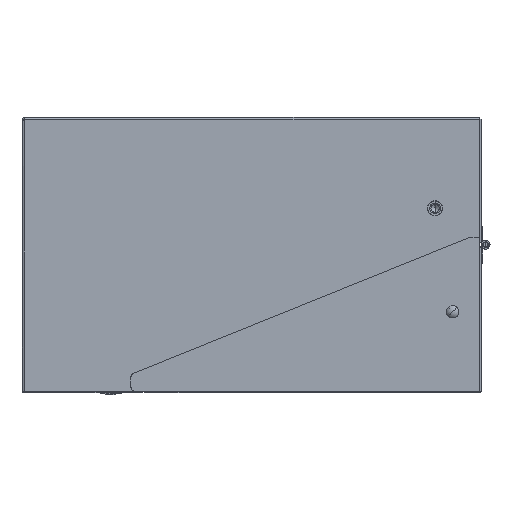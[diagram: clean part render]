
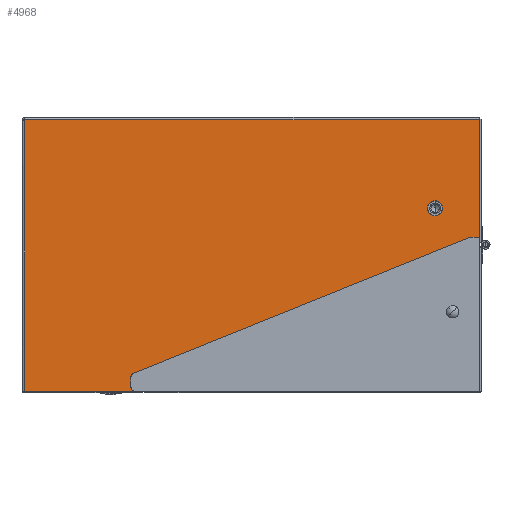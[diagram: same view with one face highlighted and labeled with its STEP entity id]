
A CAD part, left-side view. The second image highlights one B-rep face of the part: STEP entity #4968.
In plain terms, the highlighted planar face has unit normal (-1, 0, 0).
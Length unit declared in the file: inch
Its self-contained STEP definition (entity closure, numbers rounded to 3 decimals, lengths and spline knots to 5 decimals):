
#4892 = VERTEX_POINT ( 'NONE', #13781 ) ;
#4894 = EDGE_CURVE ( 'Edge23', #4895, #4892, #13779, .T. ) ;
#4895 = VERTEX_POINT ( 'NONE', #13837 ) ;
#4927 = EDGE_CURVE ( 'Edge65', #4928, #4955, #13905, .T. ) ;
#4928 = VERTEX_POINT ( 'NONE', #13900 ) ;
#4929 = ORIENTED_EDGE ( 'NONE', *, *, #4930, .F. ) ;
#4930 = EDGE_CURVE ( 'Edge15', #4931, #4928, #13899, .T. ) ;
#4931 = VERTEX_POINT ( 'NONE', #13895 ) ;
#4932 = ORIENTED_EDGE ( 'NONE', *, *, #4933, .F. ) ;
#4933 = EDGE_CURVE ( 'Edge56', #4934, #4931, #13894, .T. ) ;
#4934 = VERTEX_POINT ( 'NONE', #13890 ) ;
#4935 = ORIENTED_EDGE ( 'NONE', *, *, #4936, .F. ) ;
#4936 = EDGE_CURVE ( 'NONE', #4937, #4934, #13889, .T. ) ;
#4937 = VERTEX_POINT ( 'NONE', #13885 ) ;
#4938 = ORIENTED_EDGE ( 'NONE', *, *, #4939, .F. ) ;
#4939 = EDGE_CURVE ( 'NONE', #4940, #4937, #13884, .T. ) ;
#4940 = VERTEX_POINT ( 'NONE', #13880 ) ;
#4941 = EDGE_CURVE ( 'Edge23', #4892, #4895, #13879, .T. ) ;
#4942 = EDGE_LOOP ( 'NONE', ( #4943, #4947, #4950, #4953, #4956, #4929, #4932, #4935, #4938, #5002, #5005 ) ) ;
#4943 = ORIENTED_EDGE ( 'NONE', *, *, #4944, .T. ) ;
#4944 = EDGE_CURVE ( 'NONE', #4945, #4946, #13874, .T. ) ;
#4945 = VERTEX_POINT ( 'NONE', #13936 ) ;
#4946 = VERTEX_POINT ( 'NONE', #13935 ) ;
#4947 = ORIENTED_EDGE ( 'NONE', *, *, #4948, .F. ) ;
#4948 = EDGE_CURVE ( 'NONE', #4949, #4946, #13933, .T. ) ;
#4949 = VERTEX_POINT ( 'NONE', #13929 ) ;
#4950 = ORIENTED_EDGE ( 'NONE', *, *, #4951, .F. ) ;
#4951 = EDGE_CURVE ( 'Edge26', #4952, #4949, #13928, .T. ) ;
#4952 = VERTEX_POINT ( 'NONE', #13924 ) ;
#4953 = ORIENTED_EDGE ( 'NONE', *, *, #4954, .F. ) ;
#4954 = EDGE_CURVE ( 'Edge6', #4955, #4952, #13923, .T. ) ;
#4955 = VERTEX_POINT ( 'NONE', #13919 ) ;
#4956 = ORIENTED_EDGE ( 'NONE', *, *, #4927, .F. ) ;
#4968 = ADVANCED_FACE ( 'Face2', ( #13961, #13960 ), #13959, .F. ) ;
#4969 = EDGE_LOOP ( 'NONE', ( #4970, #4971 ) ) ;
#4970 = ORIENTED_EDGE ( 'NONE', *, *, #4894, .T. ) ;
#4971 = ORIENTED_EDGE ( 'NONE', *, *, #4941, .T. ) ;
#5002 = ORIENTED_EDGE ( 'NONE', *, *, #5003, .F. ) ;
#5003 = EDGE_CURVE ( 'NONE', #5004, #4940, #14035, .T. ) ;
#5004 = VERTEX_POINT ( 'NONE', #14031 ) ;
#5005 = ORIENTED_EDGE ( 'NONE', *, *, #5006, .F. ) ;
#5006 = EDGE_CURVE ( 'NONE', #4945, #5004, #14030, .T. ) ;
#13775 = DIRECTION ( 'NONE',  ( 0., 0., -1. ) ) ;
#13776 = DIRECTION ( 'NONE',  ( 1., 0., 0. ) ) ;
#13777 = CARTESIAN_POINT ( 'NONE',  ( -15., 12.0435, 5.94 ) ) ;
#13778 = AXIS2_PLACEMENT_3D ( 'NONE', #13777, #13776, #13775 ) ;
#13779 = CIRCLE ( 'NONE', #13778, 0.4765 ) ;
#13781 = CARTESIAN_POINT ( 'NONE',  ( -15., 12.0435, 5.4635 ) ) ;
#13837 = CARTESIAN_POINT ( 'NONE',  ( -15., 12.0435, 6.4165 ) ) ;
#13872 = VECTOR ( 'NONE', #13937, 39.37008 ) ;
#13873 = CARTESIAN_POINT ( 'NONE',  ( -15., -14.9345, 17.86 ) ) ;
#13874 = LINE ( 'NONE', #13873, #13872 ) ;
#13875 = DIRECTION ( 'NONE',  ( 0., 0., -1. ) ) ;
#13876 = DIRECTION ( 'NONE',  ( 1., 0., 0. ) ) ;
#13877 = CARTESIAN_POINT ( 'NONE',  ( -15., 12.0435, 5.94 ) ) ;
#13878 = AXIS2_PLACEMENT_3D ( 'NONE', #13877, #13876, #13875 ) ;
#13879 = CIRCLE ( 'NONE', #13878, 0.4765 ) ;
#13880 = CARTESIAN_POINT ( 'NONE',  ( -15., -7.55996, 16.78 ) ) ;
#13881 = DIRECTION ( 'NONE',  ( 0., 0., 1. ) ) ;
#13882 = VECTOR ( 'NONE', #13881, 39.37008 ) ;
#13883 = CARTESIAN_POINT ( 'NONE',  ( -15., -7.55996, 17.875 ) ) ;
#13884 = LINE ( 'NONE', #13883, #13882 ) ;
#13885 = CARTESIAN_POINT ( 'NONE',  ( -15., -7.55996, 17.875 ) ) ;
#13886 = DIRECTION ( 'NONE',  ( 0., -1., 0. ) ) ;
#13887 = VECTOR ( 'NONE', #13886, 39.37008 ) ;
#13888 = CARTESIAN_POINT ( 'NONE',  ( -15., -14.9345, 17.875 ) ) ;
#13889 = LINE ( 'NONE', #13888, #13887 ) ;
#13890 = CARTESIAN_POINT ( 'NONE',  ( -15., -14.7695, 17.875 ) ) ;
#13891 = DIRECTION ( 'NONE',  ( 0., 0., -1. ) ) ;
#13892 = VECTOR ( 'NONE', #13891, 39.37008 ) ;
#13893 = CARTESIAN_POINT ( 'NONE',  ( -15., -14.7695, 166.225 ) ) ;
#13894 = LINE ( 'NONE', #13893, #13892 ) ;
#13895 = CARTESIAN_POINT ( 'NONE',  ( -15., -14.7695, 0.165 ) ) ;
#13896 = DIRECTION ( 'NONE',  ( 0., 1., 0. ) ) ;
#13897 = VECTOR ( 'NONE', #13896, 39.37008 ) ;
#13898 = CARTESIAN_POINT ( 'NONE',  ( -15., 14.9345, 0.165 ) ) ;
#13899 = LINE ( 'NONE', #13898, #13897 ) ;
#13900 = CARTESIAN_POINT ( 'NONE',  ( -15., 14.9345, 0.165 ) ) ;
#13901 = DIRECTION ( 'NONE',  ( 0., 0., 1. ) ) ;
#13902 = VECTOR ( 'NONE', #13901, 39.37008 ) ;
#13904 = CARTESIAN_POINT ( 'NONE',  ( -15., 14.9345, 8.117 ) ) ;
#13905 = LINE ( 'NONE', #13904, #13902 ) ;
#13919 = CARTESIAN_POINT ( 'NONE',  ( -15., 14.9345, 8.117 ) ) ;
#13920 = DIRECTION ( 'NONE',  ( 0., -1., 0. ) ) ;
#13921 = VECTOR ( 'NONE', #13920, 39.37008 ) ;
#13922 = CARTESIAN_POINT ( 'NONE',  ( -15., 13.9995, 8.117 ) ) ;
#13923 = LINE ( 'NONE', #13922, #13921 ) ;
#13924 = CARTESIAN_POINT ( 'NONE',  ( -15., 13.9995, 8.117 ) ) ;
#13925 = DIRECTION ( 'NONE',  ( 0., 0., 1. ) ) ;
#13926 = VECTOR ( 'NONE', #13925, 39.37008 ) ;
#13927 = CARTESIAN_POINT ( 'NONE',  ( -15., 13.9995, 9.937 ) ) ;
#13928 = LINE ( 'NONE', #13927, #13926 ) ;
#13929 = CARTESIAN_POINT ( 'NONE',  ( -15., 13.9995, 9.937 ) ) ;
#13930 = DIRECTION ( 'NONE',  ( 0., -0.929, 0.371 ) ) ;
#13931 = VECTOR ( 'NONE', #13930, 39.37008 ) ;
#13932 = CARTESIAN_POINT ( 'NONE',  ( -15., -5.8875, 17.875 ) ) ;
#13933 = LINE ( 'NONE', #13932, #13931 ) ;
#13935 = CARTESIAN_POINT ( 'NONE',  ( -15., -5.84992, 17.86 ) ) ;
#13936 = CARTESIAN_POINT ( 'NONE',  ( -15., -6.24746, 17.86 ) ) ;
#13937 = DIRECTION ( 'NONE',  ( 0., 1., 0. ) ) ;
#13955 = DIRECTION ( 'NONE',  ( 0., 0., 1. ) ) ;
#13956 = DIRECTION ( 'NONE',  ( 1., 0., 0. ) ) ;
#13957 = CARTESIAN_POINT ( 'NONE',  ( -15., -14.9345, 17.875 ) ) ;
#13958 = AXIS2_PLACEMENT_3D ( 'NONE', #13957, #13956, #13955 ) ;
#13959 = PLANE ( 'NONE',  #13958 ) ;
#13960 = FACE_OUTER_BOUND ( 'NONE', #4942, .T. ) ;
#13961 = FACE_BOUND ( 'NONE', #4969, .T. ) ;
#14027 = DIRECTION ( 'NONE',  ( 0., 0., -1. ) ) ;
#14028 = VECTOR ( 'NONE', #14027, 39.37008 ) ;
#14029 = CARTESIAN_POINT ( 'NONE',  ( -15., -6.24746, 17.875 ) ) ;
#14030 = LINE ( 'NONE', #14029, #14028 ) ;
#14031 = CARTESIAN_POINT ( 'NONE',  ( -15., -6.24746, 16.78 ) ) ;
#14032 = DIRECTION ( 'NONE',  ( 0., -1., 0. ) ) ;
#14033 = VECTOR ( 'NONE', #14032, 39.37008 ) ;
#14034 = CARTESIAN_POINT ( 'NONE',  ( -15., -14.9345, 16.78 ) ) ;
#14035 = LINE ( 'NONE', #14034, #14033 ) ;
